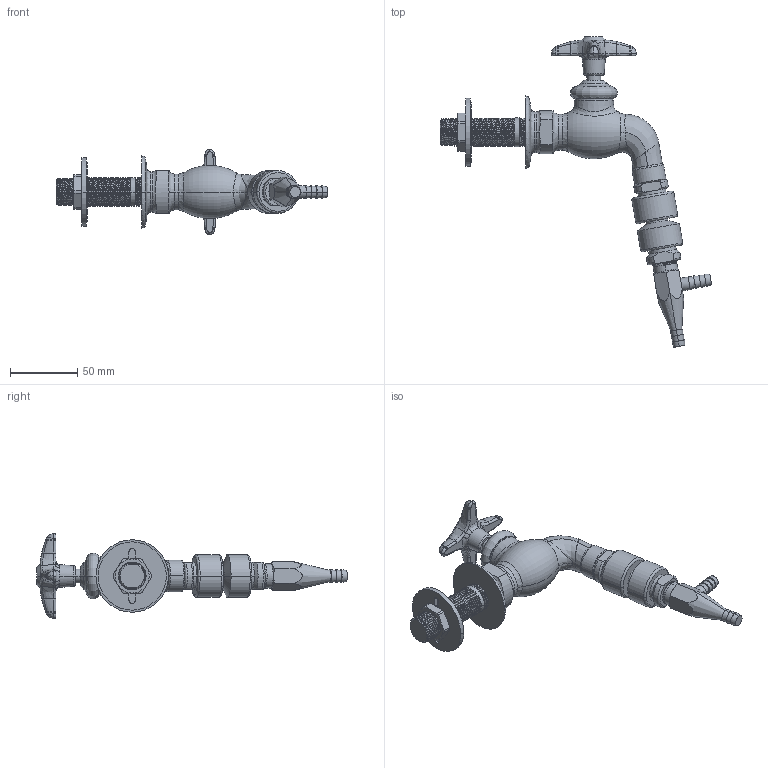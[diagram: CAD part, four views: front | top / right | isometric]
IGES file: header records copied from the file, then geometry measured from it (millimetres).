
Start section:  PTC IGES file: LWV4-A61.igs
Global section: file name: LWV4-A61.igs; native system: Creo Parametric by PTC Inc.; preprocessor: 2014500; author: usch_engrender; organization: Unknown; date: 20150915.131415; units: inch
Bounding box: 202.04 x 231.12 x 63.41 mm (x, y, z)
Volume: 199164.8 mm3; surface area: 45808.8 mm2
Topology: 1 solids, 4 shells, 564 faces, 1415 edges, 874 vertices
Faces by surface type: bspline 315, revolution 249
